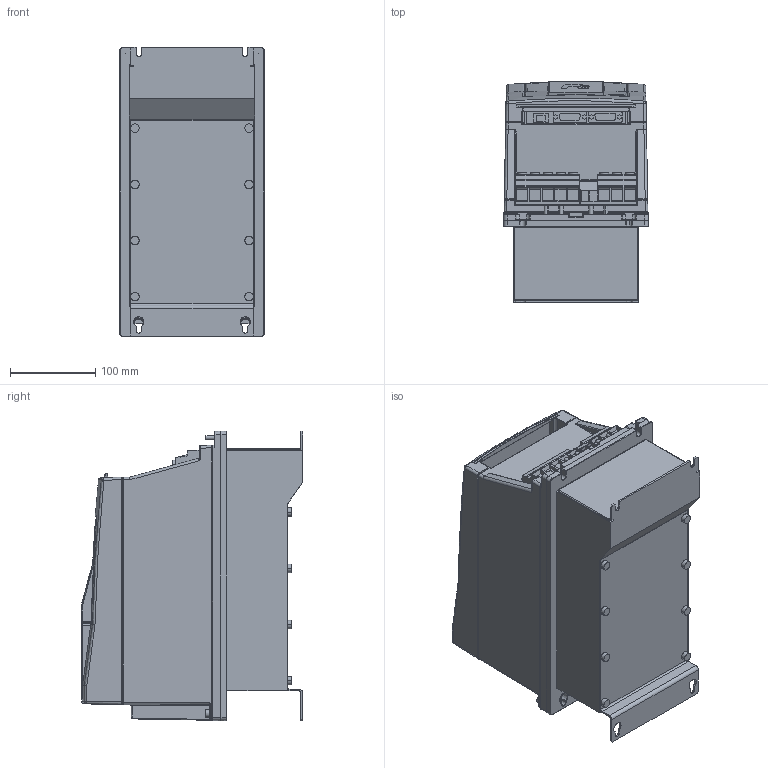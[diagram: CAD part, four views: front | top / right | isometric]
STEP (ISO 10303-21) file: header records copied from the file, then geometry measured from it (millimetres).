
FILE_DESCRIPTION (( 'STEP AP214' ), '1' );
FILE_NAME ('Housing F6-3 TR0-A030.STEP', '2020-11-10T09:16:26', ( '' ), ( '' ), 'SwSTEP 2.0', 'SolidWorks 2019', '' );
FILE_SCHEMA (( 'AUTOMOTIVE_DESIGN' ));
Length unit declared in the file: millimetre
Products named in the file (9): 10059763_000; Housing F6-3 TR0-A030; 10036504_000_Leistungsteil TR0 (Kundenmodell); 10059764_000_Blindabdeckung (Kundenmodell); 10060393_000; 10035736_000_Kundenmodell; 10059765_000; 10040482_000_Kundenmodell; 10060392_000
Assembly tree (8 placements, depth 4):
  Housing F6-3 TR0-A030
    10036504_000_Leistungsteil TR0 (Kundenmodell)
      10060392_000
    10040482_000_Kundenmodell
      10060393_000
    10035736_000_Kundenmodell
      10059764_000_Blindabdeckung (Kundenmodell)
        10059765_000
      10059763_000
Bounding box: 170 x 259.88 x 340 mm (x, y, z)
Volume: 10580827.9 mm3; surface area: 629179.9 mm2
Topology: 11 solids, 14 shells, 2070 faces, 5197 edges, 3186 vertices
Faces by surface type: plane 907, cylinder 613, bspline 327, torus 98, cone 75, sphere 50
Entity records: 69213 total; most frequent: CARTESIAN_POINT 22026, ORIENTED_EDGE 10266, DIRECTION 8976, EDGE_CURVE 5133, VERTEX_POINT 3186, AXIS2_PLACEMENT_3D 3069, LINE 2838, VECTOR 2838
